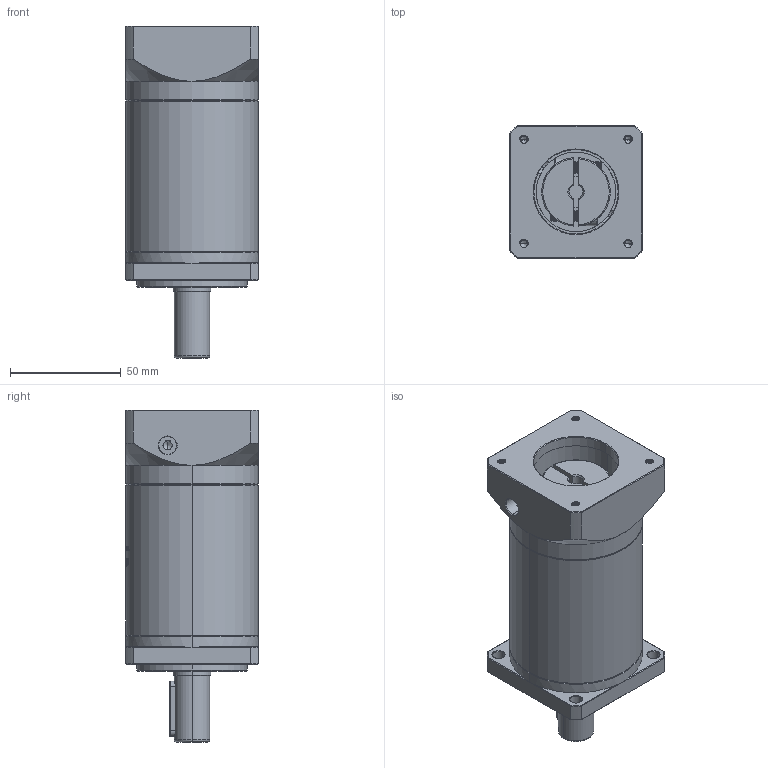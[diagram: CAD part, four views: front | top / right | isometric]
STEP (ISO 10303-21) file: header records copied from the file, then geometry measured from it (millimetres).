
FILE_DESCRIPTION (( 'STEP AP214' ), '1' );
FILE_NAME ('ZF60-D16-L3-6.35-38.1-47.14X47.14-M4.STEP', '2022-04-17T11:23:29', ( '' ), ( 'Microsoft' ), 'SwSTEP 2.0', 'SolidWorks 2016', '' );
FILE_SCHEMA (( 'AUTOMOTIVE_DESIGN' ));
Length unit declared in the file: millimetre
Products named in the file (1): ZF60-D16-L3-6.35-38.1-47.14X47.14-M4
Bounding box: 60 x 60 x 150 mm (x, y, z)
Volume: 326901.1 mm3; surface area: 50509.7 mm2
Topology: 6 solids, 6 shells, 1617 faces, 4372 edges, 2831 vertices
Faces by surface type: plane 744, cylinder 327, bspline 299, cone 229, torus 18
Entity records: 88904 total; most frequent: CARTESIAN_POINT 34142, ORIENTED_EDGE 8716, DIRECTION 6393, EDGE_CURVE 4358, VERTEX_POINT 2831, VECTOR 2213, LINE 2213, AXIS2_PLACEMENT_3D 2090
